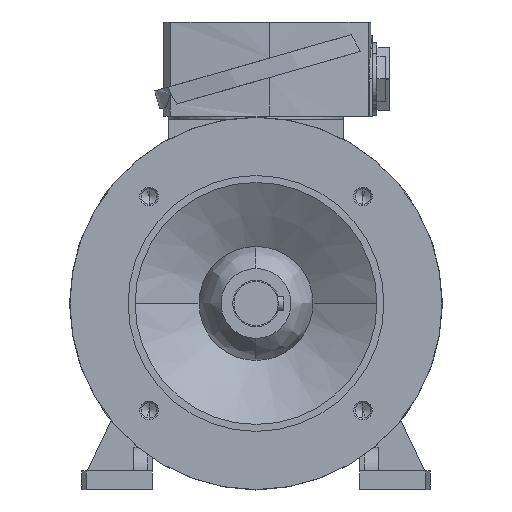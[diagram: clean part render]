
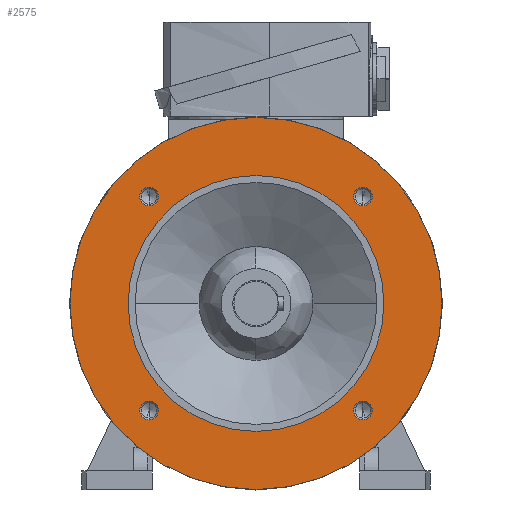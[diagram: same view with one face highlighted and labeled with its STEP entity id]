
A CAD part, left-side view. The second image highlights one B-rep face of the part: STEP entity #2575.
In plain terms, the highlighted planar face has unit normal (-1, 0, 0).
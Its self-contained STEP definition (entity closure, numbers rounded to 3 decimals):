
#302 = CIRCLE ( 'NONE', #11201, 80. ) ;
#2186 = AXIS2_PLACEMENT_3D ( 'NONE', #7360, #7361, #7362 ) ;
#2189 = AXIS2_PLACEMENT_3D ( 'NONE', #7374, #7375, #7376 ) ;
#2191 = AXIS2_PLACEMENT_3D ( 'NONE', #7384, #7385, #7386 ) ;
#2193 = AXIS2_PLACEMENT_3D ( 'NONE', #7394, #7395, #7396 ) ;
#2195 = AXIS2_PLACEMENT_3D ( 'NONE', #7404, #7405, #7406 ) ;
#2241 = AXIS2_PLACEMENT_3D ( 'NONE', #7671, #7672, #7674 ) ;
#2575 = ADVANCED_FACE ( 'NONE', ( #5135, #5139, #5136, #5138, #5129, #5140 ), #16023, .T. ) ;
#3148 = AXIS2_PLACEMENT_3D ( 'NONE', #16030, #16025, #16031 ) ;
#5129 = FACE_BOUND ( 'NONE', #20116, .T. ) ;
#5135 = FACE_BOUND ( 'NONE', #20117, .T. ) ;
#5136 = FACE_BOUND ( 'NONE', #20118, .T. ) ;
#5138 = FACE_BOUND ( 'NONE', #20115, .T. ) ;
#5139 = FACE_OUTER_BOUND ( 'NONE', #20120, .T. ) ;
#5140 = FACE_BOUND ( 'NONE', #20122, .T. ) ;
#7360 = CARTESIAN_POINT ( 'NONE',  ( -27., 0., 0. ) ) ;
#7361 = DIRECTION ( 'NONE',  ( 1., 0., 0. ) ) ;
#7362 = DIRECTION ( 'NONE',  ( 0., 0., 1. ) ) ;
#7374 = CARTESIAN_POINT ( 'NONE',  ( -27., -45.962, 45.962 ) ) ;
#7375 = DIRECTION ( 'NONE',  ( 1., 0., 0. ) ) ;
#7376 = DIRECTION ( 'NONE',  ( 0., 0., 1. ) ) ;
#7384 = CARTESIAN_POINT ( 'NONE',  ( -27., 45.962, 45.962 ) ) ;
#7385 = DIRECTION ( 'NONE',  ( 1., 0., 0. ) ) ;
#7386 = DIRECTION ( 'NONE',  ( 0., 0., 1. ) ) ;
#7394 = CARTESIAN_POINT ( 'NONE',  ( -27., 45.962, -45.962 ) ) ;
#7395 = DIRECTION ( 'NONE',  ( 1., 0., 0. ) ) ;
#7396 = DIRECTION ( 'NONE',  ( 0., 0., 1. ) ) ;
#7404 = CARTESIAN_POINT ( 'NONE',  ( -27., -45.962, -45.962 ) ) ;
#7405 = DIRECTION ( 'NONE',  ( 1., 0., 0. ) ) ;
#7406 = DIRECTION ( 'NONE',  ( 0., 0., 1. ) ) ;
#7671 = CARTESIAN_POINT ( 'NONE',  ( -27., 0., 0. ) ) ;
#7672 = DIRECTION ( 'NONE',  ( 1., 0., 0. ) ) ;
#7674 = DIRECTION ( 'NONE',  ( 0., 0., -1. ) ) ;
#7765 = CIRCLE ( 'NONE', #11272, 4. ) ;
#7768 = CIRCLE ( 'NONE', #11278, 55. ) ;
#7772 = CIRCLE ( 'NONE', #11274, 4. ) ;
#7777 = CIRCLE ( 'NONE', #11276, 4. ) ;
#11201 = AXIS2_PLACEMENT_3D ( 'NONE', #22105, #22106, #22107 ) ;
#11270 = AXIS2_PLACEMENT_3D ( 'NONE', #22445, #22446, #22447 ) ;
#11272 = AXIS2_PLACEMENT_3D ( 'NONE', #22448, #22449, #22450 ) ;
#11274 = AXIS2_PLACEMENT_3D ( 'NONE', #22451, #22452, #22453 ) ;
#11276 = AXIS2_PLACEMENT_3D ( 'NONE', #22454, #22455, #22456 ) ;
#11278 = AXIS2_PLACEMENT_3D ( 'NONE', #22457, #22458, #22459 ) ;
#11576 = CIRCLE ( 'NONE', #2186, 55. ) ;
#11589 = CIRCLE ( 'NONE', #2189, 4. ) ;
#11595 = CIRCLE ( 'NONE', #2191, 4. ) ;
#11601 = CIRCLE ( 'NONE', #2193, 4. ) ;
#11607 = CIRCLE ( 'NONE', #2195, 4. ) ;
#11808 = CIRCLE ( 'NONE', #2241, 80. ) ;
#11844 = EDGE_CURVE ( 'NONE', #14110, #14107, #302, .T. ) ;
#12056 = EDGE_CURVE ( 'NONE', #14171, #14170, #17535, .T. ) ;
#12058 = EDGE_CURVE ( 'NONE', #14179, #14054, #7765, .T. ) ;
#12060 = EDGE_CURVE ( 'NONE', #14055, #14176, #7772, .T. ) ;
#12062 = EDGE_CURVE ( 'NONE', #14057, #14058, #7777, .T. ) ;
#12064 = EDGE_CURVE ( 'NONE', #14066, #14067, #7768, .T. ) ;
#14054 = VERTEX_POINT ( 'NONE', #14339 ) ;
#14055 = VERTEX_POINT ( 'NONE', #14341 ) ;
#14057 = VERTEX_POINT ( 'NONE', #14343 ) ;
#14058 = VERTEX_POINT ( 'NONE', #14346 ) ;
#14066 = VERTEX_POINT ( 'NONE', #14358 ) ;
#14067 = VERTEX_POINT ( 'NONE', #14359 ) ;
#14107 = VERTEX_POINT ( 'NONE', #14434 ) ;
#14110 = VERTEX_POINT ( 'NONE', #14439 ) ;
#14170 = VERTEX_POINT ( 'NONE', #14551 ) ;
#14171 = VERTEX_POINT ( 'NONE', #14553 ) ;
#14176 = VERTEX_POINT ( 'NONE', #14562 ) ;
#14179 = VERTEX_POINT ( 'NONE', #14567 ) ;
#14339 = CARTESIAN_POINT ( 'NONE',  ( -27., 45.962, -41.962 ) ) ;
#14341 = CARTESIAN_POINT ( 'NONE',  ( -27., 45.962, 41.962 ) ) ;
#14343 = CARTESIAN_POINT ( 'NONE',  ( -27., -45.962, 41.962 ) ) ;
#14346 = CARTESIAN_POINT ( 'NONE',  ( -27., -45.962, 49.962 ) ) ;
#14358 = CARTESIAN_POINT ( 'NONE',  ( -27., 0., 55. ) ) ;
#14359 = CARTESIAN_POINT ( 'NONE',  ( -27., 0., -55. ) ) ;
#14434 = CARTESIAN_POINT ( 'NONE',  ( -27., 0., 80. ) ) ;
#14439 = CARTESIAN_POINT ( 'NONE',  ( -27., 0., -80. ) ) ;
#14551 = CARTESIAN_POINT ( 'NONE',  ( -27., -45.962, -41.962 ) ) ;
#14553 = CARTESIAN_POINT ( 'NONE',  ( -27., -45.962, -49.962 ) ) ;
#14562 = CARTESIAN_POINT ( 'NONE',  ( -27., 45.962, 49.962 ) ) ;
#14567 = CARTESIAN_POINT ( 'NONE',  ( -27., 45.962, -49.962 ) ) ;
#16023 = PLANE ( 'NONE',  #3148 ) ;
#16025 = DIRECTION ( 'NONE',  ( -1., 0., 0. ) ) ;
#16030 = CARTESIAN_POINT ( 'NONE',  ( -27., 0., 67.5 ) ) ;
#16031 = DIRECTION ( 'NONE',  ( 0., 0., 1. ) ) ;
#17535 = CIRCLE ( 'NONE', #11270, 4. ) ;
#19347 = EDGE_CURVE ( 'NONE', #14067, #14066, #11576, .T. ) ;
#19353 = EDGE_CURVE ( 'NONE', #14058, #14057, #11589, .T. ) ;
#19357 = EDGE_CURVE ( 'NONE', #14176, #14055, #11595, .T. ) ;
#19361 = EDGE_CURVE ( 'NONE', #14054, #14179, #11601, .T. ) ;
#19365 = EDGE_CURVE ( 'NONE', #14170, #14171, #11607, .T. ) ;
#19776 = EDGE_CURVE ( 'NONE', #14107, #14110, #11808, .T. ) ;
#20115 = EDGE_LOOP ( 'NONE', ( #21728, #21730 ) ) ;
#20116 = EDGE_LOOP ( 'NONE', ( #21732, #21734 ) ) ;
#20117 = EDGE_LOOP ( 'NONE', ( #21716, #21718 ) ) ;
#20118 = EDGE_LOOP ( 'NONE', ( #21724, #21726 ) ) ;
#20120 = EDGE_LOOP ( 'NONE', ( #21720, #21722 ) ) ;
#20122 = EDGE_LOOP ( 'NONE', ( #21736, #21738 ) ) ;
#21716 = ORIENTED_EDGE ( 'NONE', *, *, #12064, .T. ) ;
#21718 = ORIENTED_EDGE ( 'NONE', *, *, #19347, .T. ) ;
#21720 = ORIENTED_EDGE ( 'NONE', *, *, #11844, .F. ) ;
#21722 = ORIENTED_EDGE ( 'NONE', *, *, #19776, .F. ) ;
#21724 = ORIENTED_EDGE ( 'NONE', *, *, #19353, .T. ) ;
#21726 = ORIENTED_EDGE ( 'NONE', *, *, #12062, .T. ) ;
#21728 = ORIENTED_EDGE ( 'NONE', *, *, #19357, .T. ) ;
#21730 = ORIENTED_EDGE ( 'NONE', *, *, #12060, .T. ) ;
#21732 = ORIENTED_EDGE ( 'NONE', *, *, #19361, .T. ) ;
#21734 = ORIENTED_EDGE ( 'NONE', *, *, #12058, .T. ) ;
#21736 = ORIENTED_EDGE ( 'NONE', *, *, #19365, .T. ) ;
#21738 = ORIENTED_EDGE ( 'NONE', *, *, #12056, .T. ) ;
#22105 = CARTESIAN_POINT ( 'NONE',  ( -27., 0., 0. ) ) ;
#22106 = DIRECTION ( 'NONE',  ( 1., 0., 0. ) ) ;
#22107 = DIRECTION ( 'NONE',  ( 0., 0., -1. ) ) ;
#22445 = CARTESIAN_POINT ( 'NONE',  ( -27., -45.962, -45.962 ) ) ;
#22446 = DIRECTION ( 'NONE',  ( 1., 0., 0. ) ) ;
#22447 = DIRECTION ( 'NONE',  ( 0., 0., 1. ) ) ;
#22448 = CARTESIAN_POINT ( 'NONE',  ( -27., 45.962, -45.962 ) ) ;
#22449 = DIRECTION ( 'NONE',  ( 1., 0., 0. ) ) ;
#22450 = DIRECTION ( 'NONE',  ( 0., 0., 1. ) ) ;
#22451 = CARTESIAN_POINT ( 'NONE',  ( -27., 45.962, 45.962 ) ) ;
#22452 = DIRECTION ( 'NONE',  ( 1., 0., 0. ) ) ;
#22453 = DIRECTION ( 'NONE',  ( 0., 0., 1. ) ) ;
#22454 = CARTESIAN_POINT ( 'NONE',  ( -27., -45.962, 45.962 ) ) ;
#22455 = DIRECTION ( 'NONE',  ( 1., 0., 0. ) ) ;
#22456 = DIRECTION ( 'NONE',  ( 0., 0., 1. ) ) ;
#22457 = CARTESIAN_POINT ( 'NONE',  ( -27., 0., 0. ) ) ;
#22458 = DIRECTION ( 'NONE',  ( 1., 0., 0. ) ) ;
#22459 = DIRECTION ( 'NONE',  ( 0., 0., 1. ) ) ;
